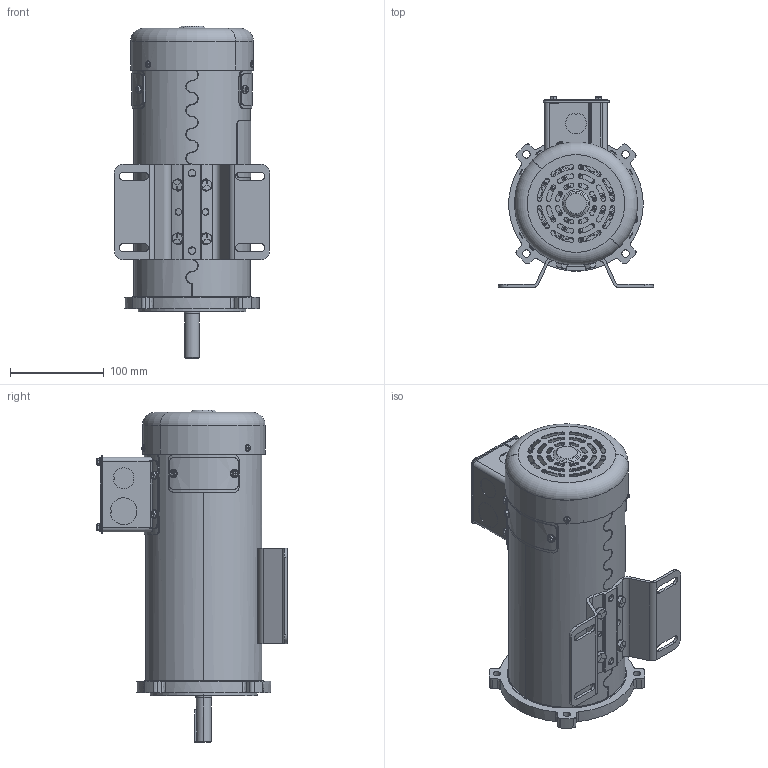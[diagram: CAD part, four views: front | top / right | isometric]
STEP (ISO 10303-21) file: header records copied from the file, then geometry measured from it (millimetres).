
FILE_DESCRIPTION (( 'STEP AP203' ), '1' );
FILE_NAME ('612-0076-DC123_Rev01.STEP', '2018-08-15T20:31:26', ( 'RBC' ), ( 'RBC' ), 'SwSTEP 2.0', 'SolidWorks 2015', '' );
FILE_SCHEMA (( 'CONFIG_CONTROL_DESIGN' ));
Length unit declared in the file: inch
Products named in the file (1): 612-0076-DC123_Rev01
Bounding box: 165.1 x 202.79 x 353.33 mm (x, y, z)
Volume: 1009422.8 mm3; surface area: 557852.2 mm2
Topology: 50 solids, 50 shells, 3833 faces, 9384 edges, 5635 vertices
Faces by surface type: cylinder 1058, plane 1043, bspline 1012, cone 328, torus 308, sphere 84
Entity records: 151465 total; most frequent: CARTESIAN_POINT 68975, ORIENTED_EDGE 18540, DIRECTION 15379, EDGE_CURVE 9270, AXIS2_PLACEMENT_3D 6058, VERTEX_POINT 5635, EDGE_LOOP 4129, FACE_OUTER_BOUND 3833
